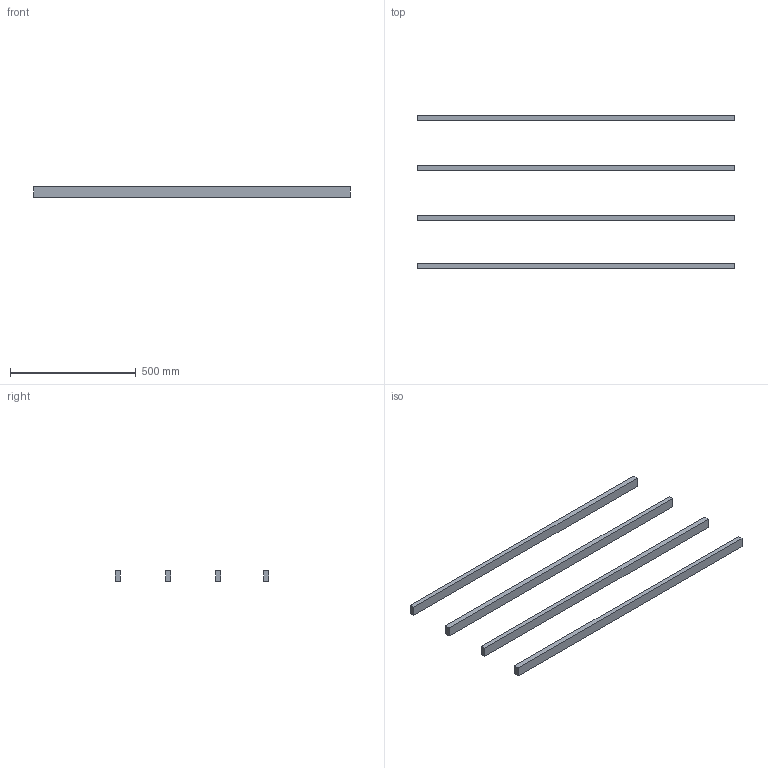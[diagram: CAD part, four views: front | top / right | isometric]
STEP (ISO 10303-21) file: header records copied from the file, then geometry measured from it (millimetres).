
FILE_DESCRIPTION(/* description */ (''),/* implementation_level */ '2;1');
FILE_NAME(/* name */ '12.frame-table#12.1#HFSB5-2040-1260',/* time_stamp */ '2014-12-01T20:19:38+01:00',/* author */ (''),/* organization */ (''),/* preprocessor_version */ 'ST-DEVELOPER v14',/* originating_system */ '',/* authorisation */ '');
FILE_SCHEMA (('AUTOMOTIVE_DESIGN'));
Length unit declared in the file: millimetre
Products named in the file (1): Document
Bounding box: 1260 x 610 x 40 mm (x, y, z)
Volume: 4032000 mm3; surface area: 611200 mm2
Topology: 4 solids, 4 shells, 24 faces, 48 edges, 32 vertices
Faces by surface type: plane 24
Entity records: 1117 total; most frequent: CARTESIAN_POINT 346, B_SPLINE_CURVE_WITH_KNOTS 144, ORIENTED_EDGE 96, PCURVE 96, DEFINITIONAL_REPRESENTATION 96, SURFACE_CURVE 48, EDGE_CURVE 48, VERTEX_POINT 32
